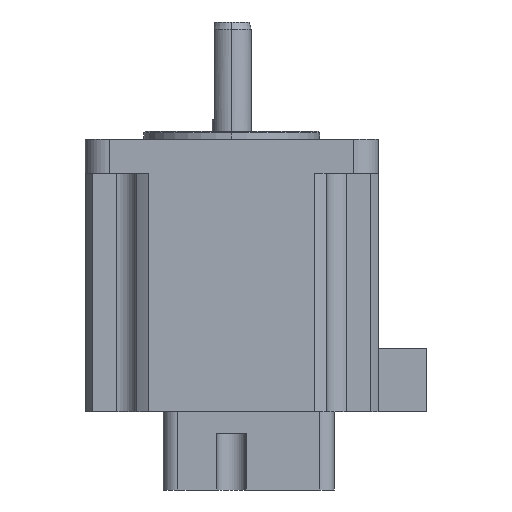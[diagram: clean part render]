
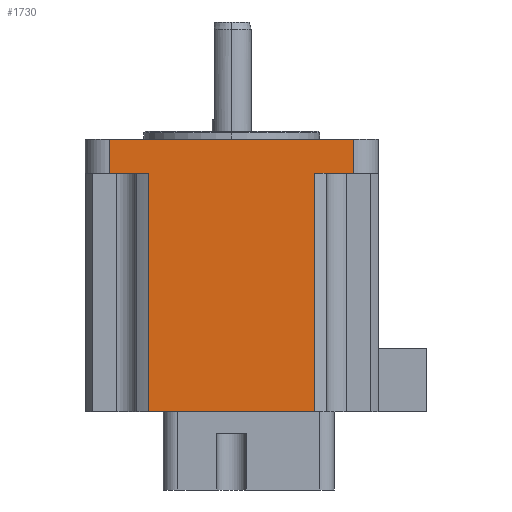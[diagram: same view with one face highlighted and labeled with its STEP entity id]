
A CAD part, left-side view. The second image highlights one B-rep face of the part: STEP entity #1730.
In plain terms, the highlighted planar face has unit normal (-1, 0, 0).
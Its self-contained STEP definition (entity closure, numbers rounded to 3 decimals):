
#32 = LINE ( 'NONE', #744, #784 ) ;
#170 = EDGE_CURVE ( 'NONE', #2288, #1236, #1789, .T. ) ;
#203 = DIRECTION ( 'NONE',  ( 0., 0., 1. ) ) ;
#259 = DIRECTION ( 'NONE',  ( 0., 1., 0. ) ) ;
#332 = CARTESIAN_POINT ( 'NONE',  ( -30., 25., -8.6 ) ) ;
#344 = EDGE_CURVE ( 'NONE', #771, #1879, #412, .T. ) ;
#359 = DIRECTION ( 'NONE',  ( 0., 1., 0. ) ) ;
#369 = CARTESIAN_POINT ( 'NONE',  ( -30., 17.037, -8.6 ) ) ;
#412 = LINE ( 'NONE', #332, #1290 ) ;
#418 = FACE_OUTER_BOUND ( 'NONE', #1602, .T. ) ;
#424 = ORIENTED_EDGE ( 'NONE', *, *, #170, .T. ) ;
#426 = AXIS2_PLACEMENT_3D ( 'NONE', #2608, #1712, #2167 ) ;
#480 = DIRECTION ( 'NONE',  ( 0., 1., 0. ) ) ;
#486 = VECTOR ( 'NONE', #2853, 1000. ) ;
#528 = ORIENTED_EDGE ( 'NONE', *, *, #2155, .F. ) ;
#544 = CARTESIAN_POINT ( 'NONE',  ( -30., -25., -8.6 ) ) ;
#588 = LINE ( 'NONE', #1272, #2796 ) ;
#595 = ORIENTED_EDGE ( 'NONE', *, *, #2657, .F. ) ;
#637 = CARTESIAN_POINT ( 'NONE',  ( -30., 25., -1.6 ) ) ;
#661 = PLANE ( 'NONE',  #426 ) ;
#744 = CARTESIAN_POINT ( 'NONE',  ( -30., 0., -57.4 ) ) ;
#771 = VERTEX_POINT ( 'NONE', #637 ) ;
#784 = VECTOR ( 'NONE', #259, 1000. ) ;
#930 = EDGE_CURVE ( 'NONE', #1969, #1236, #2654, .T. ) ;
#961 = ORIENTED_EDGE ( 'NONE', *, *, #1918, .T. ) ;
#1040 = CARTESIAN_POINT ( 'NONE',  ( -30., -17.037, -8.6 ) ) ;
#1057 = CARTESIAN_POINT ( 'NONE',  ( -30., 30., -1.6 ) ) ;
#1088 = CARTESIAN_POINT ( 'NONE',  ( -30., 17.037, -57.4 ) ) ;
#1108 = ORIENTED_EDGE ( 'NONE', *, *, #930, .F. ) ;
#1190 = ORIENTED_EDGE ( 'NONE', *, *, #2241, .F. ) ;
#1232 = VECTOR ( 'NONE', #359, 1000. ) ;
#1236 = VERTEX_POINT ( 'NONE', #1040 ) ;
#1258 = VECTOR ( 'NONE', #480, 1000. ) ;
#1272 = CARTESIAN_POINT ( 'NONE',  ( -30., -25., -8.6 ) ) ;
#1290 = VECTOR ( 'NONE', #2064, 1000. ) ;
#1333 = CARTESIAN_POINT ( 'NONE',  ( -30., -25., -1.6 ) ) ;
#1395 = CARTESIAN_POINT ( 'NONE',  ( -30., -17.037, -57.4 ) ) ;
#1477 = DIRECTION ( 'NONE',  ( 0., 1., 0. ) ) ;
#1480 = ORIENTED_EDGE ( 'NONE', *, *, #2484, .T. ) ;
#1517 = CARTESIAN_POINT ( 'NONE',  ( -30., 17.037, -57.4 ) ) ;
#1541 = CARTESIAN_POINT ( 'NONE',  ( -30., 30., -8.6 ) ) ;
#1602 = EDGE_LOOP ( 'NONE', ( #1108, #1480, #961, #2537, #528, #595, #1190, #424 ) ) ;
#1676 = VECTOR ( 'NONE', #203, 1000. ) ;
#1677 = CARTESIAN_POINT ( 'NONE',  ( -30., 25., -8.6 ) ) ;
#1705 = VERTEX_POINT ( 'NONE', #1333 ) ;
#1712 = DIRECTION ( 'NONE',  ( 1., 0., 0. ) ) ;
#1730 = ADVANCED_FACE ( 'NONE', ( #418 ), #661, .F. ) ;
#1740 = VERTEX_POINT ( 'NONE', #1088 ) ;
#1789 = LINE ( 'NONE', #2399, #486 ) ;
#1840 = VERTEX_POINT ( 'NONE', #369 ) ;
#1879 = VERTEX_POINT ( 'NONE', #1677 ) ;
#1918 = EDGE_CURVE ( 'NONE', #1705, #771, #2362, .T. ) ;
#1935 = LINE ( 'NONE', #2503, #1232 ) ;
#1969 = VERTEX_POINT ( 'NONE', #544 ) ;
#2064 = DIRECTION ( 'NONE',  ( 0., 0., -1. ) ) ;
#2146 = VECTOR ( 'NONE', #1477, 1000. ) ;
#2155 = EDGE_CURVE ( 'NONE', #1840, #1879, #1935, .T. ) ;
#2167 = DIRECTION ( 'NONE',  ( 0., 1., 0. ) ) ;
#2219 = LINE ( 'NONE', #1517, #1676 ) ;
#2241 = EDGE_CURVE ( 'NONE', #2288, #1740, #32, .T. ) ;
#2288 = VERTEX_POINT ( 'NONE', #1395 ) ;
#2362 = LINE ( 'NONE', #1057, #2146 ) ;
#2399 = CARTESIAN_POINT ( 'NONE',  ( -30., -17.037, -57.4 ) ) ;
#2484 = EDGE_CURVE ( 'NONE', #1969, #1705, #588, .T. ) ;
#2503 = CARTESIAN_POINT ( 'NONE',  ( -30., 30., -8.6 ) ) ;
#2537 = ORIENTED_EDGE ( 'NONE', *, *, #344, .T. ) ;
#2568 = DIRECTION ( 'NONE',  ( 0., 0., 1. ) ) ;
#2608 = CARTESIAN_POINT ( 'NONE',  ( -30., 30., -8.6 ) ) ;
#2654 = LINE ( 'NONE', #1541, #1258 ) ;
#2657 = EDGE_CURVE ( 'NONE', #1740, #1840, #2219, .T. ) ;
#2796 = VECTOR ( 'NONE', #2568, 1000. ) ;
#2853 = DIRECTION ( 'NONE',  ( 0., 0., 1. ) ) ;
